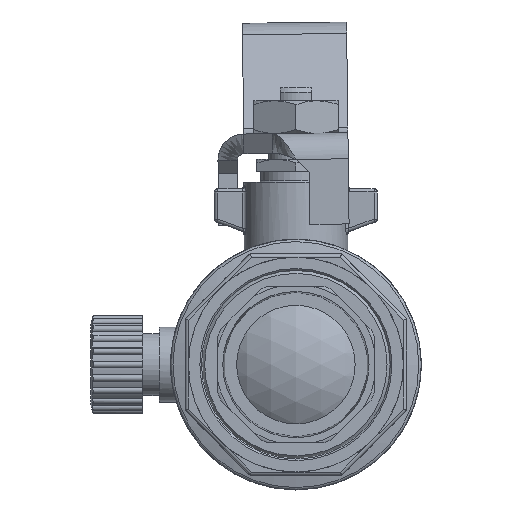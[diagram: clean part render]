
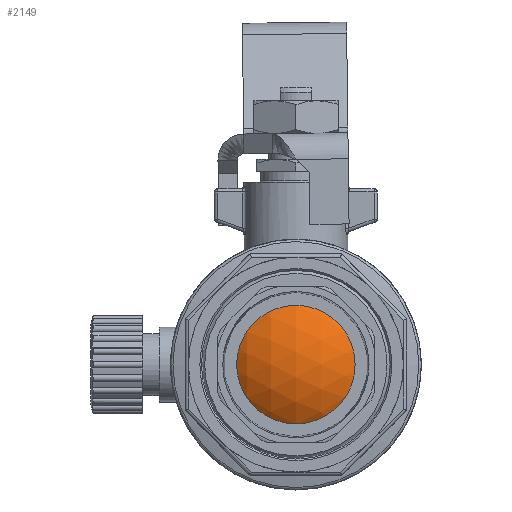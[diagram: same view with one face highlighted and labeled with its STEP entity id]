
A CAD part, left-side view. The second image highlights one B-rep face of the part: STEP entity #2149.
In plain terms, the highlighted spherical face has radius 0.63 mm.
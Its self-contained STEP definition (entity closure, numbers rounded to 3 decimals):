
#1934 = TOROIDAL_SURFACE('',#1935,0.41,0.016);
#1935 = AXIS2_PLACEMENT_3D('',#1936,#1937,#1938);
#1936 = CARTESIAN_POINT('',(-243.771,113.748,-30.6));
#1937 = DIRECTION('',(-1.,0.,0.));
#1938 = DIRECTION('',(0.,-1.,0.));
#2027 = VERTEX_POINT('',#2028);
#2028 = CARTESIAN_POINT('',(-243.783,113.748,
    -30.18));
#2052 = EDGE_CURVE('',#2027,#2053,#2055,.T.);
#2053 = VERTEX_POINT('',#2054);
#2054 = CARTESIAN_POINT('',(-243.783,114.168,-30.6));
#2055 = SURFACE_CURVE('',#2056,(#2061,#2068),.PCURVE_S1.);
#2056 = CIRCLE('',#2057,0.42);
#2057 = AXIS2_PLACEMENT_3D('',#2058,#2059,#2060);
#2058 = CARTESIAN_POINT('',(-243.783,113.748,-30.6));
#2059 = DIRECTION('',(-1.,0.,0.));
#2060 = DIRECTION('',(0.,0.,-1.));
#2061 = PCURVE('',#1934,#2062);
#2062 = DEFINITIONAL_REPRESENTATION('',(#2063),#2067);
#2063 = LINE('',#2064,#2065);
#2064 = CARTESIAN_POINT('',(-1.571,7.124));
#2065 = VECTOR('',#2066,1.);
#2066 = DIRECTION('',(1.,0.));
#2067 = ( GEOMETRIC_REPRESENTATION_CONTEXT(2) 
PARAMETRIC_REPRESENTATION_CONTEXT() REPRESENTATION_CONTEXT('2D SPACE',''
  ) );
#2068 = PCURVE('',#2069,#2074);
#2069 = SPHERICAL_SURFACE('',#2070,0.63);
#2070 = AXIS2_PLACEMENT_3D('',#2071,#2072,#2073);
#2071 = CARTESIAN_POINT('',(-243.313,113.748,-30.6));
#2072 = DIRECTION('',(0.,1.,0.));
#2073 = DIRECTION('',(-1.,0.,0.));
#2074 = DEFINITIONAL_REPRESENTATION('',(#2075),#2101);
#2075 = B_SPLINE_CURVE_WITH_KNOTS('',3,(#2076,#2077,#2078,#2079,#2080,
    #2081,#2082,#2083,#2084,#2085,#2086,#2087,#2088,#2089,#2090,#2091,
    #2092,#2093,#2094,#2095,#2096,#2097,#2098,#2099,#2100),
  .UNSPECIFIED.,.F.,.F.,(4,1,1,1,1,1,1,1,1,1,1,1,1,1,1,1,1,1,1,1,1,1,4),
  (3.142,3.213,3.284,3.356,
    3.427,3.499,3.57,3.641,
    3.713,3.784,3.856,3.927,
    3.998,4.07,4.141,4.213,
    4.284,4.355,4.427,4.498,
    4.57,4.641,4.712),
  .QUASI_UNIFORM_KNOTS.);
#2076 = CARTESIAN_POINT('',(0.73,0.));
#2077 = CARTESIAN_POINT('',(0.73,0.016));
#2078 = CARTESIAN_POINT('',(0.729,0.048));
#2079 = CARTESIAN_POINT('',(0.725,0.095));
#2080 = CARTESIAN_POINT('',(0.719,0.142));
#2081 = CARTESIAN_POINT('',(0.71,0.189));
#2082 = CARTESIAN_POINT('',(0.698,0.235));
#2083 = CARTESIAN_POINT('',(0.683,0.281));
#2084 = CARTESIAN_POINT('',(0.666,0.325));
#2085 = CARTESIAN_POINT('',(0.646,0.369));
#2086 = CARTESIAN_POINT('',(0.622,0.411));
#2087 = CARTESIAN_POINT('',(0.595,0.452));
#2088 = CARTESIAN_POINT('',(0.565,0.491));
#2089 = CARTESIAN_POINT('',(0.53,0.528));
#2090 = CARTESIAN_POINT('',(0.493,0.563));
#2091 = CARTESIAN_POINT('',(0.451,0.596));
#2092 = CARTESIAN_POINT('',(0.406,0.626));
#2093 = CARTESIAN_POINT('',(0.356,0.652));
#2094 = CARTESIAN_POINT('',(0.304,0.675));
#2095 = CARTESIAN_POINT('',(0.247,0.695));
#2096 = CARTESIAN_POINT('',(0.188,0.71));
#2097 = CARTESIAN_POINT('',(0.127,0.721));
#2098 = CARTESIAN_POINT('',(0.064,0.728));
#2099 = CARTESIAN_POINT('',(0.021,0.73));
#2100 = CARTESIAN_POINT('',(0.,0.73));
#2101 = ( GEOMETRIC_REPRESENTATION_CONTEXT(2) 
PARAMETRIC_REPRESENTATION_CONTEXT() REPRESENTATION_CONTEXT('2D SPACE',''
  ) );
#2103 = EDGE_CURVE('',#2053,#2027,#2104,.T.);
#2104 = SURFACE_CURVE('',#2105,(#2110,#2117),.PCURVE_S1.);
#2105 = CIRCLE('',#2106,0.42);
#2106 = AXIS2_PLACEMENT_3D('',#2107,#2108,#2109);
#2107 = CARTESIAN_POINT('',(-243.783,113.748,-30.6));
#2108 = DIRECTION('',(-1.,0.,0.));
#2109 = DIRECTION('',(0.,0.,-1.));
#2110 = PCURVE('',#1934,#2111);
#2111 = DEFINITIONAL_REPRESENTATION('',(#2112),#2116);
#2112 = LINE('',#2113,#2114);
#2113 = CARTESIAN_POINT('',(-1.571,7.124));
#2114 = VECTOR('',#2115,1.);
#2115 = DIRECTION('',(1.,0.));
#2116 = ( GEOMETRIC_REPRESENTATION_CONTEXT(2) 
PARAMETRIC_REPRESENTATION_CONTEXT() REPRESENTATION_CONTEXT('2D SPACE',''
  ) );
#2117 = PCURVE('',#2069,#2118);
#2118 = DEFINITIONAL_REPRESENTATION('',(#2119),#2145);
#2119 = B_SPLINE_CURVE_WITH_KNOTS('',3,(#2120,#2121,#2122,#2123,#2124,
    #2125,#2126,#2127,#2128,#2129,#2130,#2131,#2132,#2133,#2134,#2135,
    #2136,#2137,#2138,#2139,#2140,#2141,#2142,#2143,#2144),
  .UNSPECIFIED.,.F.,.F.,(4,1,1,1,1,1,1,1,1,1,1,1,1,1,1,1,1,1,1,1,1,1,4),
  (4.712,4.927,5.141,5.355,
    5.569,5.783,5.998,6.212,
    6.426,6.64,6.854,7.069,
    7.283,7.497,7.711,7.925,
    8.14,8.354,8.568,8.782,
    8.996,9.211,9.425),
  .QUASI_UNIFORM_KNOTS.);
#2120 = CARTESIAN_POINT('',(0.,0.73));
#2121 = CARTESIAN_POINT('',(-0.065,0.73));
#2122 = CARTESIAN_POINT('',(-0.191,0.716));
#2123 = CARTESIAN_POINT('',(-0.361,0.657));
#2124 = CARTESIAN_POINT('',(-0.498,0.567));
#2125 = CARTESIAN_POINT('',(-0.6,0.454));
#2126 = CARTESIAN_POINT('',(-0.67,0.327));
#2127 = CARTESIAN_POINT('',(-0.713,0.19));
#2128 = CARTESIAN_POINT('',(-0.732,0.048));
#2129 = CARTESIAN_POINT('',(-0.728,-0.095));
#2130 = CARTESIAN_POINT('',(-0.702,-0.236));
#2131 = CARTESIAN_POINT('',(-0.65,-0.371));
#2132 = CARTESIAN_POINT('',(-0.569,-0.494));
#2133 = CARTESIAN_POINT('',(-0.456,-0.6));
#2134 = CARTESIAN_POINT('',(-0.308,-0.68));
#2135 = CARTESIAN_POINT('',(-0.129,-0.727));
#2136 = CARTESIAN_POINT('',(0.065,-0.734));
#2137 = CARTESIAN_POINT('',(0.251,-0.7));
#2138 = CARTESIAN_POINT('',(0.411,-0.63));
#2139 = CARTESIAN_POINT('',(0.536,-0.531));
#2140 = CARTESIAN_POINT('',(0.626,-0.413));
#2141 = CARTESIAN_POINT('',(0.687,-0.282));
#2142 = CARTESIAN_POINT('',(0.722,-0.143));
#2143 = CARTESIAN_POINT('',(0.73,-0.048));
#2144 = CARTESIAN_POINT('',(0.73,0.));
#2145 = ( GEOMETRIC_REPRESENTATION_CONTEXT(2) 
PARAMETRIC_REPRESENTATION_CONTEXT() REPRESENTATION_CONTEXT('2D SPACE',''
  ) );
#2149 = ADVANCED_FACE('',(#2150),#2069,.T.);
#2150 = FACE_BOUND('',#2151,.T.);
#2151 = EDGE_LOOP('',(#2152,#2153));
#2152 = ORIENTED_EDGE('',*,*,#2103,.T.);
#2153 = ORIENTED_EDGE('',*,*,#2052,.T.);
